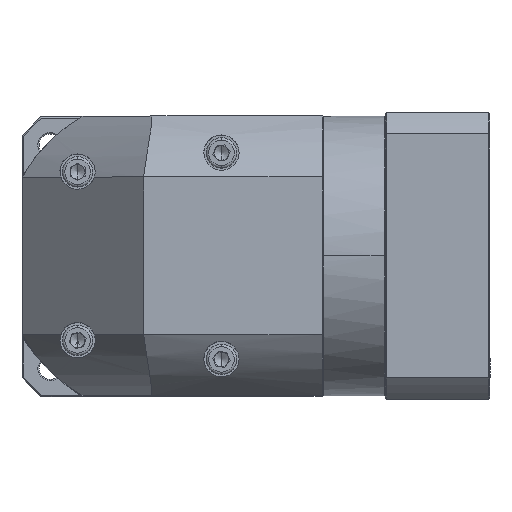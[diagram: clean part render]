
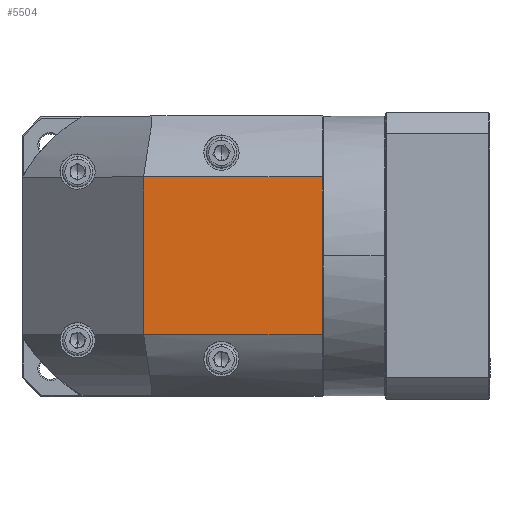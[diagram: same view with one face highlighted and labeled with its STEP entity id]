
A CAD part, top view. The second image highlights one B-rep face of the part: STEP entity #5504.
In plain terms, the highlighted planar face has unit normal (0, 0, 1).
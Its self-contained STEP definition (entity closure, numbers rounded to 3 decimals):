
#3214 = FACE_OUTER_BOUND ( 'NONE', #69254, .T. ) ;
#3930 = CARTESIAN_POINT ( 'NONE',  ( 102.424, 102.563, 43.763 ) ) ;
#5504 = ADVANCED_FACE ( 'NONE', ( #3214 ), #69948, .F. ) ;
#15911 = CARTESIAN_POINT ( 'NONE',  ( -20.976, 12.664, 43.763 ) ) ;
#16467 = VECTOR ( 'NONE', #103293, 1000. ) ;
#17017 = EDGE_CURVE ( 'NONE', #101064, #83995, #39932, .T. ) ;
#18515 = AXIS2_PLACEMENT_3D ( 'NONE', #111364, #26219, #122069 ) ;
#26219 = DIRECTION ( 'NONE',  ( 0., 0., -1. ) ) ;
#27284 = ORIENTED_EDGE ( 'NONE', *, *, #17017, .F. ) ;
#36295 = VECTOR ( 'NONE', #130221, 1000. ) ;
#38661 = LINE ( 'NONE', #114710, #120150 ) ;
#39409 = ORIENTED_EDGE ( 'NONE', *, *, #68269, .F. ) ;
#39932 = LINE ( 'NONE', #15911, #16467 ) ;
#40973 = EDGE_CURVE ( 'NONE', #83995, #115405, #54742, .T. ) ;
#54742 = LINE ( 'NONE', #99000, #36295 ) ;
#66968 = VERTEX_POINT ( 'NONE', #115873 ) ;
#68269 = EDGE_CURVE ( 'NONE', #66968, #101064, #86150, .T. ) ;
#69254 = EDGE_LOOP ( 'NONE', ( #120697, #92944, #27284, #39409 ) ) ;
#69948 = PLANE ( 'NONE',  #18515 ) ;
#83995 = VERTEX_POINT ( 'NONE', #127942 ) ;
#86150 = LINE ( 'NONE', #3930, #114405 ) ;
#92944 = ORIENTED_EDGE ( 'NONE', *, *, #40973, .F. ) ;
#99000 = CARTESIAN_POINT ( 'NONE',  ( 29.024, 102.563, 43.763 ) ) ;
#101064 = VERTEX_POINT ( 'NONE', #131299 ) ;
#103293 = DIRECTION ( 'NONE',  ( -1., 0., 0. ) ) ;
#111364 = CARTESIAN_POINT ( 'NONE',  ( 36.524, 45.063, 43.763 ) ) ;
#114405 = VECTOR ( 'NONE', #121222, 1000. ) ;
#114710 = CARTESIAN_POINT ( 'NONE',  ( -20.976, 77.463, 43.763 ) ) ;
#115405 = VERTEX_POINT ( 'NONE', #119124 ) ;
#115873 = CARTESIAN_POINT ( 'NONE',  ( 102.424, 77.463, 43.763 ) ) ;
#119124 = CARTESIAN_POINT ( 'NONE',  ( 29.024, 77.463, 43.763 ) ) ;
#120150 = VECTOR ( 'NONE', #136656, 1000. ) ;
#120697 = ORIENTED_EDGE ( 'NONE', *, *, #125457, .F. ) ;
#121222 = DIRECTION ( 'NONE',  ( 0., -1., 0. ) ) ;
#122069 = DIRECTION ( 'NONE',  ( 0., -1., 0. ) ) ;
#125457 = EDGE_CURVE ( 'NONE', #115405, #66968, #38661, .T. ) ;
#127942 = CARTESIAN_POINT ( 'NONE',  ( 29.024, 12.664, 43.763 ) ) ;
#130221 = DIRECTION ( 'NONE',  ( 0., 1., 0. ) ) ;
#131299 = CARTESIAN_POINT ( 'NONE',  ( 102.424, 12.664, 43.763 ) ) ;
#136656 = DIRECTION ( 'NONE',  ( 1., 0., 0. ) ) ;
